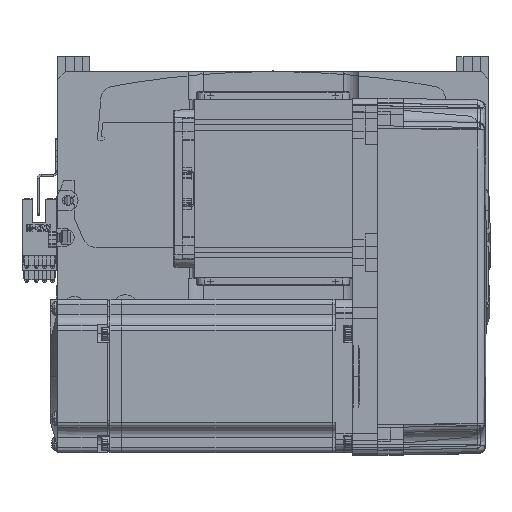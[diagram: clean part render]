
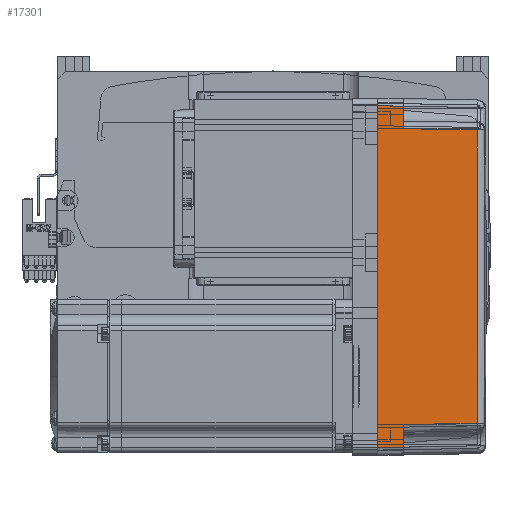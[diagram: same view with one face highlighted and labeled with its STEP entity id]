
A CAD part, top view. The second image highlights one B-rep face of the part: STEP entity #17301.
In plain terms, the highlighted planar face has unit normal (0.018, 0, 1) as drawn and (0, 1, 0.017) by its records, which use the part's own axes.
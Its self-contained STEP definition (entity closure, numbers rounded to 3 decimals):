
#690 = DIRECTION ( 'NONE',  ( 1., 0., 0. ) ) ;
#2105 = LINE ( 'NONE', #40939, #5614 ) ;
#2817 = VERTEX_POINT ( 'NONE', #38544 ) ;
#2843 = CARTESIAN_POINT ( 'NONE',  ( 57.495, 35.32, 38.985 ) ) ;
#3153 = ORIENTED_EDGE ( 'NONE', *, *, #35115, .F. ) ;
#5572 = CARTESIAN_POINT ( 'NONE',  ( -67., 36., 0. ) ) ;
#5614 = VECTOR ( 'NONE', #57717, 1000. ) ;
#6301 = CARTESIAN_POINT ( 'NONE',  ( 0., 36., 0. ) ) ;
#6816 = VERTEX_POINT ( 'NONE', #2843 ) ;
#8265 = CARTESIAN_POINT ( 'NONE',  ( 57.495, 35.32, 38.985 ) ) ;
#9077 = DIRECTION ( 'NONE',  ( 0.017, -0.017, 1. ) ) ;
#9588 = ORIENTED_EDGE ( 'NONE', *, *, #36748, .T. ) ;
#12726 = EDGE_CURVE ( 'NONE', #53563, #33964, #56920, .T. ) ;
#12961 = ORIENTED_EDGE ( 'NONE', *, *, #48450, .T. ) ;
#13039 = ORIENTED_EDGE ( 'NONE', *, *, #12726, .T. ) ;
#13560 = EDGE_CURVE ( 'NONE', #15098, #6816, #20445, .T. ) ;
#13725 = EDGE_LOOP ( 'NONE', ( #13039, #12961, #33685, #71295, #46643, #9588, #3153, #40985 ) ) ;
#15098 = VERTEX_POINT ( 'NONE', #42762 ) ;
#16773 = VECTOR ( 'NONE', #9077, 1000. ) ;
#17301 = ADVANCED_FACE ( 'NONE', ( #31658 ), #28379, .T. ) ;
#18812 = CARTESIAN_POINT ( 'NONE',  ( -66.826, 35.825, 10. ) ) ;
#20445 = B_SPLINE_CURVE_WITH_KNOTS ( 'NONE', 3,
 ( #41779, #53206, #59063, #8265 ),
 .UNSPECIFIED., .F., .F.,
 ( 4, 4 ),
 ( 0., 1. ),
 .UNSPECIFIED. ) ;
#21436 = CARTESIAN_POINT ( 'NONE',  ( -58., 35.825, 10. ) ) ;
#21994 = LINE ( 'NONE', #32023, #16773 ) ;
#25097 = VECTOR ( 'NONE', #29608, 1000. ) ;
#26219 = VECTOR ( 'NONE', #59674, 1000. ) ;
#28379 = PLANE ( 'NONE',  #51655 ) ;
#29608 = DIRECTION ( 'NONE',  ( 1., 0., 0. ) ) ;
#31658 = FACE_OUTER_BOUND ( 'NONE', #13725, .T. ) ;
#32023 = CARTESIAN_POINT ( 'NONE',  ( -58., 35.825, 10. ) ) ;
#33328 = LINE ( 'NONE', #6301, #48228 ) ;
#33685 = ORIENTED_EDGE ( 'NONE', *, *, #67479, .T. ) ;
#33964 = VERTEX_POINT ( 'NONE', #18812 ) ;
#34174 = CARTESIAN_POINT ( 'NONE',  ( 58., 35.825, 10. ) ) ;
#35115 = EDGE_CURVE ( 'NONE', #2817, #61883, #55942, .T. ) ;
#36748 = EDGE_CURVE ( 'NONE', #69141, #61883, #37252, .T. ) ;
#37252 = LINE ( 'NONE', #57837, #59078 ) ;
#38544 = CARTESIAN_POINT ( 'NONE',  ( 67., 36., 0. ) ) ;
#39613 = CARTESIAN_POINT ( 'NONE',  ( 70., 36., 0. ) ) ;
#40939 = CARTESIAN_POINT ( 'NONE',  ( 57.495, 35.32, 38.985 ) ) ;
#40985 = ORIENTED_EDGE ( 'NONE', *, *, #51828, .F. ) ;
#41779 = CARTESIAN_POINT ( 'NONE',  ( -57.495, 35.32, 38.985 ) ) ;
#42115 = VECTOR ( 'NONE', #64857, 1000. ) ;
#42762 = CARTESIAN_POINT ( 'NONE',  ( -57.495, 35.32, 38.985 ) ) ;
#45467 = DIRECTION ( 'NONE',  ( 0., -0.017, 1. ) ) ;
#46438 = DIRECTION ( 'NONE',  ( 1., 0., 0. ) ) ;
#46643 = ORIENTED_EDGE ( 'NONE', *, *, #66621, .T. ) ;
#48228 = VECTOR ( 'NONE', #690, 1000. ) ;
#48450 = EDGE_CURVE ( 'NONE', #33964, #57700, #67078, .T. ) ;
#48998 = CARTESIAN_POINT ( 'NONE',  ( -67., 36., 0. ) ) ;
#49488 = CARTESIAN_POINT ( 'NONE',  ( 66.826, 35.825, 10. ) ) ;
#50827 = DIRECTION ( 'NONE',  ( 0., 1., 0.017 ) ) ;
#51655 = AXIS2_PLACEMENT_3D ( 'NONE', #39613, #50827, #45467 ) ;
#51828 = EDGE_CURVE ( 'NONE', #53563, #2817, #33328, .T. ) ;
#53206 = CARTESIAN_POINT ( 'NONE',  ( -19.165, 35.316, 39.181 ) ) ;
#53563 = VERTEX_POINT ( 'NONE', #5572 ) ;
#55942 = LINE ( 'NONE', #70243, #26219 ) ;
#56920 = LINE ( 'NONE', #48998, #42115 ) ;
#57700 = VERTEX_POINT ( 'NONE', #21436 ) ;
#57717 = DIRECTION ( 'NONE',  ( 0.017, 0.017, -1. ) ) ;
#57837 = CARTESIAN_POINT ( 'NONE',  ( 70., 35.825, 10. ) ) ;
#59063 = CARTESIAN_POINT ( 'NONE',  ( 19.165, 35.316, 39.181 ) ) ;
#59078 = VECTOR ( 'NONE', #46438, 1000. ) ;
#59674 = DIRECTION ( 'NONE',  ( -0.017, -0.017, 1. ) ) ;
#61883 = VERTEX_POINT ( 'NONE', #49488 ) ;
#63058 = CARTESIAN_POINT ( 'NONE',  ( 70., 35.825, 10. ) ) ;
#64857 = DIRECTION ( 'NONE',  ( 0.017, -0.017, 1. ) ) ;
#66621 = EDGE_CURVE ( 'NONE', #6816, #69141, #2105, .T. ) ;
#67078 = LINE ( 'NONE', #63058, #25097 ) ;
#67479 = EDGE_CURVE ( 'NONE', #57700, #15098, #21994, .T. ) ;
#69141 = VERTEX_POINT ( 'NONE', #34174 ) ;
#70243 = CARTESIAN_POINT ( 'NONE',  ( 67.001, 36.001, -0.052 ) ) ;
#71295 = ORIENTED_EDGE ( 'NONE', *, *, #13560, .T. ) ;
